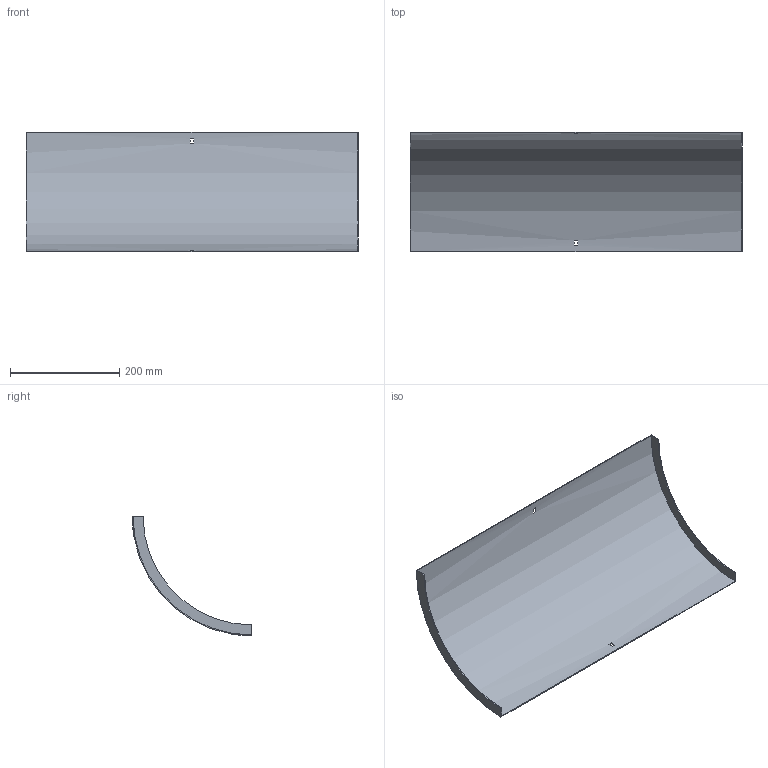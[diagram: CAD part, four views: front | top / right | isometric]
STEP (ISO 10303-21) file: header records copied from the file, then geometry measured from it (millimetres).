
FILE_DESCRIPTION (( 'STEP AP214' ), '1' );
FILE_NAME ('33N1J600.step', '2025-02-21T09:17:44', ( '' ), ( '' ), 'SwSTEP 2.0', 'SolidWorks 2023', '' );
FILE_SCHEMA (( 'AUTOMOTIVE_DESIGN' ));
Length unit declared in the file: millimetre
Products named in the file (1): 33N1J600
Bounding box: 607 x 219 x 219 mm (x, y, z)
Volume: 330122.4 mm3; surface area: 443129.8 mm2
Topology: 1 solids, 1 shells, 18 faces, 48 edges, 32 vertices
Faces by surface type: plane 14, cylinder 4
Entity records: 599 total; most frequent: DIRECTION 102, CARTESIAN_POINT 99, ORIENTED_EDGE 96, EDGE_CURVE 48, AXIS2_PLACEMENT_3D 35, LINE 32, VERTEX_POINT 32, VECTOR 32
